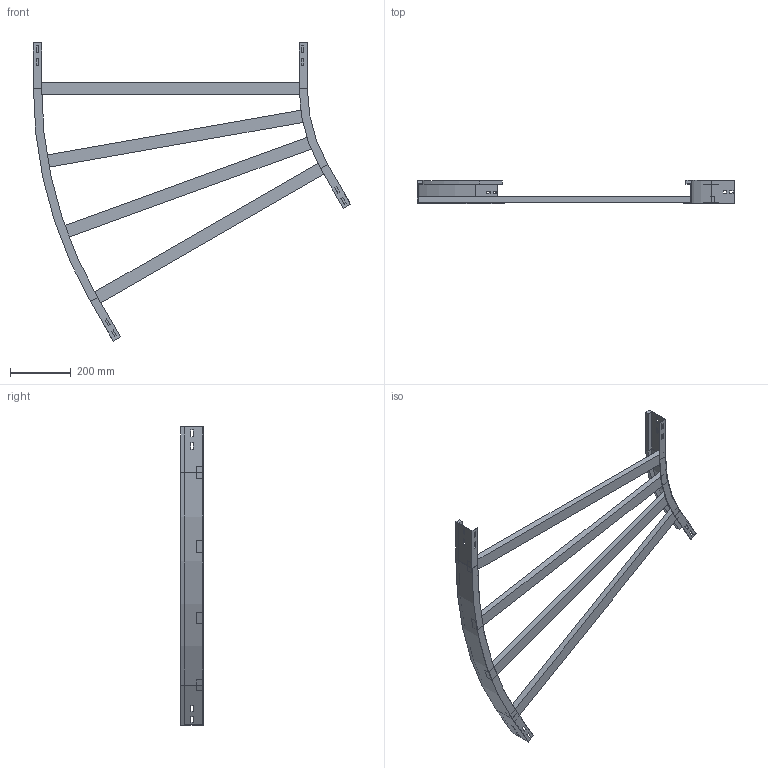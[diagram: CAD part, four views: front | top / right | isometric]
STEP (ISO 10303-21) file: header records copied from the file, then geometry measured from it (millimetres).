
FILE_DESCRIPTION (( 'STEP AP214' ), '1' );
FILE_NAME ('12B5C900.step', '2025-02-21T15:10:25', ( '' ), ( '' ), 'SwSTEP 2.0', 'SolidWorks 2023', '' );
FILE_SCHEMA (( 'AUTOMOTIVE_DESIGN' ));
Length unit declared in the file: millimetre
Products named in the file (4): 12B5C900; TRAVERSINO_900; A2_LONGH.ESTERNO 30°_H75_R500+900; A2_LONGH.INTERNO 30°_H75_R500
Assembly tree (6 placements, depth 2):
  12B5C900
    A2_LONGH.INTERNO 30°_H75_R500
    A2_LONGH.ESTERNO 30°_H75_R500+900
    TRAVERSINO_900  x4
Bounding box: 1041.99 x 75 x 979.9 mm (x, y, z)
Volume: 3523288.4 mm3; surface area: 815021.7 mm2
Topology: 6 solids, 6 shells, 140 faces, 352 edges, 224 vertices
Faces by surface type: plane 132, cylinder 8
Entity records: 3829 total; most frequent: CARTESIAN_POINT 647, ORIENTED_EDGE 632, DIRECTION 594, EDGE_CURVE 316, LINE 300, VECTOR 300, VERTEX_POINT 200, EDGE_LOOP 154
